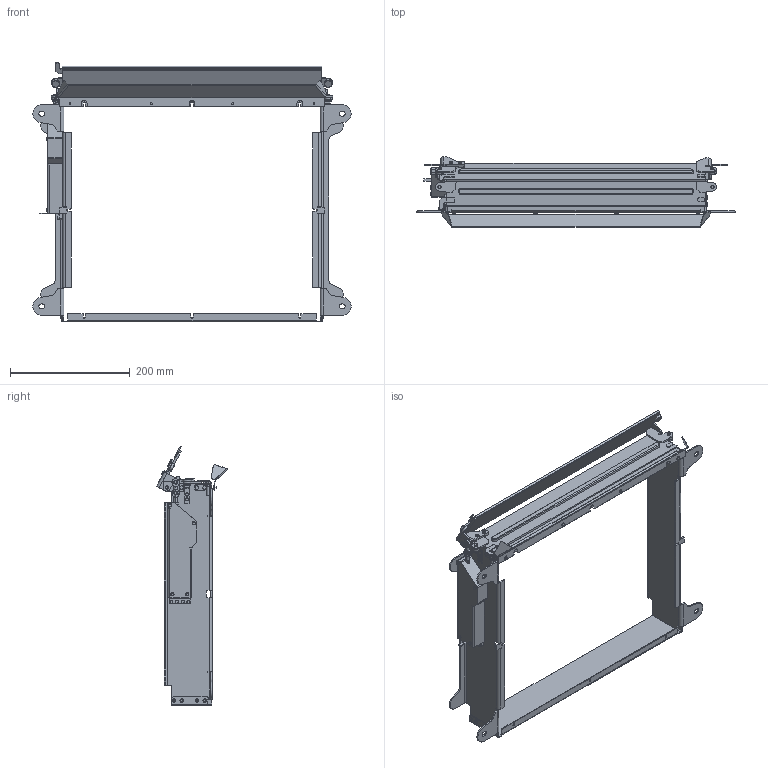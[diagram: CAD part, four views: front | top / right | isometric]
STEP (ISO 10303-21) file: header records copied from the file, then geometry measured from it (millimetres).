
FILE_DESCRIPTION (( 'STEP AP203' ), '1' );
FILE_NAME ('Asyril_PLATFORM FRAME RIGHT PURGE H=68mm - 530_000.103.803_(option).STEP', '2020-10-08T13:18:05', ( '' ), ( '' ), 'SwSTEP 2.0', 'SolidWorks 2017', '' );
FILE_SCHEMA (( 'CONFIG_CONTROL_DESIGN' ));
Products named in the file (3): Asyril_PLATFORM FRAME RIGHT PURGE H=68mm - 530_000.103.803_(option); Asyril_PLATFORM FRAME RIGHT PURGE H=68mm - 530_000.103.803_OPEN_(option); Asyril_PLATFORM FRAME RIGHT PURGE H=68mm - 530_000.103.803_CLOSED_(option)
Assembly tree (2 placements, depth 2):
  Asyril_PLATFORM FRAME RIGHT PURGE H=68mm - 530_000.103.803_(option)
    Asyril_PLATFORM FRAME RIGHT PURGE H=68mm - 530_000.103.803_CLOSED_(option)
    Asyril_PLATFORM FRAME RIGHT PURGE H=68mm - 530_000.103.803_OPEN_(option)
Bounding box: 531.9 x 118.28 x 434.36 mm (x, y, z)
Volume: 1154491.6 mm3; surface area: 743483.1 mm2
Topology: 4 solids, 20 shells, 2013 faces, 5053 edges, 3180 vertices
Faces by surface type: plane 1015, cylinder 782, cone 116, torus 76, bspline 24
Entity records: 61692 total; most frequent: CARTESIAN_POINT 11791, DIRECTION 10891, ORIENTED_EDGE 10106, EDGE_CURVE 5053, AXIS2_PLACEMENT_3D 3968, VERTEX_POINT 3180, LINE 2955, VECTOR 2955
